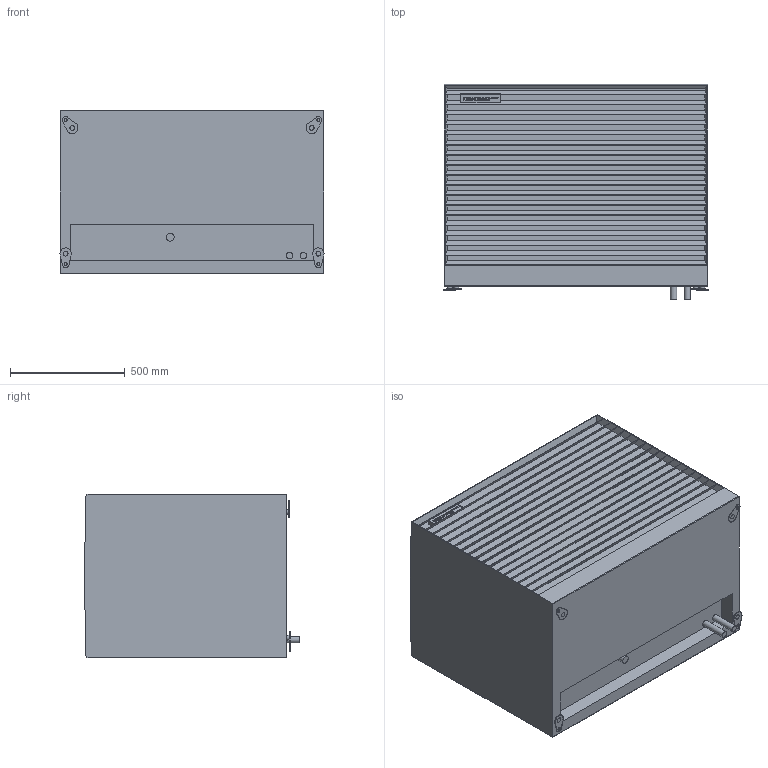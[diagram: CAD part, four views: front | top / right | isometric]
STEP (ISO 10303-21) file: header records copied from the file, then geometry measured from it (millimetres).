
FILE_DESCRIPTION (( 'STEP AP214' ), '1' );
FILE_NAME ('ADAPT 2 S_spodnji priklop.STEP', '2026-03-10T09:19:48', ( '' ), ( '' ), 'SwSTEP 2.0', 'SolidWorks 2024', '' );
FILE_SCHEMA (( 'AUTOMOTIVE_DESIGN' ));
Length unit declared in the file: millimetre
Products named in the file (1): ADAPT 2 S_spodnji priklop
Bounding box: 1153.13 x 940.74 x 715 mm (x, y, z)
Volume: 660655293.9 mm3; surface area: 8082390 mm2
Topology: 1 solids, 1 shells, 579 faces, 1607 edges, 1065 vertices
Faces by surface type: plane 425, cylinder 102, bspline 52
Full cylindrical faces by diameter (mm): 13 x4, 20.483 x4, 28 x2, 34.029 x1
Entity records: 27051 total; most frequent: CARTESIAN_POINT 6683, ORIENTED_EDGE 3190, DIRECTION 2425, EDGE_CURVE 1595, LINE 1281, VECTOR 1281, VERTEX_POINT 1064, EDGE_LOOP 633
